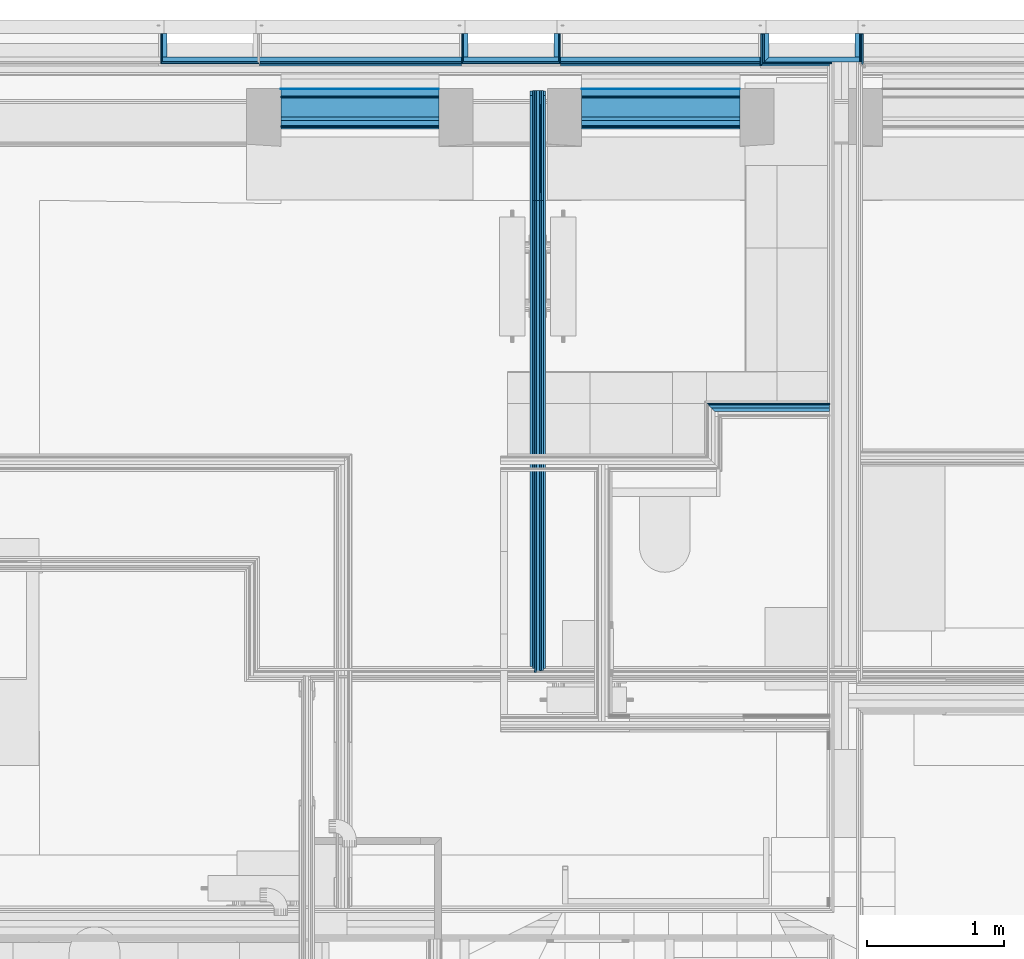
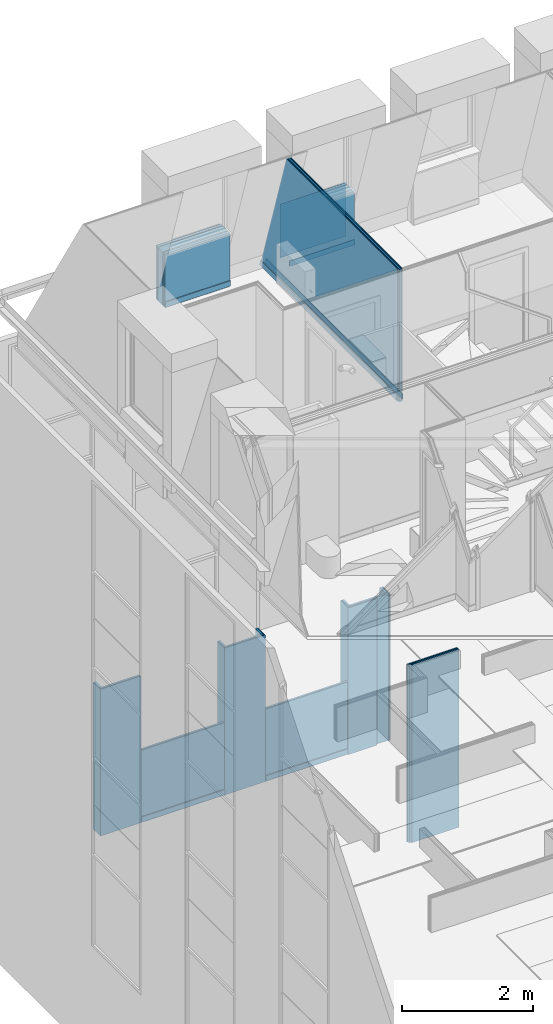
# One storey, part 27 of 169: 51 building element parts, 14 elements without a shape of their own.
"""IFC2X3 building model written with IfcOpenShell, lengths in metres."""

from ifc_helpers import new_model, entity, si_unit, converted_unit, derived_unit, money_unit, direction, frame, frame_2d, origin_with_axes, place, context, subcontext, project, spatial, polyline, rectangle, outline, extrude, clip, halfspace, material, type_object, element, aggregate, save


model = new_model("IFC2X3")

# Units and contexts
model_context = context("Model", 3, precision=1e-05, world=origin_with_axes(), true_north=direction((0.0, 1.0)))
body_context = subcontext(model_context, "Body", "Model", "MODEL_VIEW", scale=1.0)
ifc_project = project(units=[si_unit("LENGTHUNIT", "METRE"), si_unit("AREAUNIT", "SQUARE_METRE"), si_unit("VOLUMEUNIT", "CUBIC_METRE"), si_unit("ABSORBEDDOSEUNIT", "GRAY"), si_unit("AMOUNTOFSUBSTANCEUNIT", "MOLE"), si_unit("DOSEEQUIVALENTUNIT", "SIEVERT"), si_unit("ELECTRICCAPACITANCEUNIT", "FARAD"), si_unit("ELECTRICCHARGEUNIT", "COULOMB"), si_unit("ELECTRICCONDUCTANCEUNIT", "SIEMENS"), si_unit("ELECTRICCURRENTUNIT", "AMPERE"), si_unit("ELECTRICRESISTANCEUNIT", "OHM"), si_unit("ELECTRICVOLTAGEUNIT", "VOLT"), si_unit("ENERGYUNIT", "JOULE"), si_unit("FORCEUNIT", "NEWTON"), si_unit("FREQUENCYUNIT", "HERTZ"), si_unit("ILLUMINANCEUNIT", "LUX"), si_unit("INDUCTANCEUNIT", "HENRY"), si_unit("LUMINOUSFLUXUNIT", "LUMEN"), si_unit("LUMINOUSINTENSITYUNIT", "CANDELA"), si_unit("MAGNETICFLUXDENSITYUNIT", "TESLA"), si_unit("MAGNETICFLUXUNIT", "WEBER"), si_unit("MASSUNIT", "GRAM"), converted_unit("PLANEANGLEUNIT", "degree", entity("IfcReal", 0.0174532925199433), si_unit("PLANEANGLEUNIT", "RADIAN"), dimensions=[0, 0, 0, 0, 0, 0, 0]), si_unit("POWERUNIT", "WATT"), si_unit("PRESSUREUNIT", "PASCAL"), si_unit("RADIOACTIVITYUNIT", "BECQUEREL"), si_unit("SOLIDANGLEUNIT", "STERADIAN"), si_unit("THERMODYNAMICTEMPERATUREUNIT", "KELVIN"), si_unit("TIMEUNIT", "SECOND"), derived_unit("ACCELERATIONUNIT", [(si_unit("LENGTHUNIT", "METRE"), 1), (si_unit("TIMEUNIT", "SECOND"), -2)]), derived_unit("ANGULARVELOCITYUNIT", [(converted_unit("PLANEANGLEUNIT", "degree", entity("IfcReal", 0.0174532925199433), si_unit("PLANEANGLEUNIT", "RADIAN"), dimensions=[0, 0, 0, 0, 0, 0, 0]), 1), (si_unit("TIMEUNIT", "SECOND"), -1)]), derived_unit("CURVATUREUNIT", [(converted_unit("PLANEANGLEUNIT", "degree", entity("IfcReal", 0.0174532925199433), si_unit("PLANEANGLEUNIT", "RADIAN"), dimensions=[0, 0, 0, 0, 0, 0, 0]), 1), (si_unit("LENGTHUNIT", "METRE"), -1)]), derived_unit("DYNAMICVISCOSITYUNIT", [(si_unit("PRESSUREUNIT", "PASCAL"), 1), (si_unit("TIMEUNIT", "SECOND"), 1)]), derived_unit("HEATFLUXDENSITYUNIT", [(si_unit("POWERUNIT", "WATT"), 1), (si_unit("LENGTHUNIT", "METRE"), -2)]), derived_unit("HEATINGVALUEUNIT", [(si_unit("ENERGYUNIT", "JOULE"), 1), (si_unit("MASSUNIT", "GRAM"), -1)]), derived_unit("INTEGERCOUNTRATEUNIT", [(si_unit("TIMEUNIT", "SECOND"), -1)]), derived_unit("IONCONCENTRATIONUNIT", [(si_unit("MASSUNIT", "GRAM"), 1), (si_unit("VOLUMEUNIT", "CUBIC_METRE"), -1)]), derived_unit("ISOTHERMALMOISTURECAPACITYUNIT", [(si_unit("VOLUMEUNIT", "CUBIC_METRE"), 1), (si_unit("MASSUNIT", "GRAM"), -1)]), derived_unit("KINEMATICVISCOSITYUNIT", [(si_unit("AREAUNIT", "SQUARE_METRE"), 1), (si_unit("TIMEUNIT", "SECOND"), -1)]), derived_unit("LINEARFORCEUNIT", [(si_unit("FORCEUNIT", "NEWTON"), 1), (si_unit("LENGTHUNIT", "METRE"), -1)]), derived_unit("LINEARMOMENTUNIT", [(si_unit("FORCEUNIT", "NEWTON"), 1), (si_unit("LENGTHUNIT", "METRE"), -1)]), derived_unit("LINEARSTIFFNESSUNIT", [(si_unit("FORCEUNIT", "NEWTON"), 1), (si_unit("LENGTHUNIT", "METRE"), -1)]), derived_unit("LINEARVELOCITYUNIT", [(si_unit("LENGTHUNIT", "METRE"), 1), (si_unit("TIMEUNIT", "SECOND"), -1)]), derived_unit("LUMINOUSINTENSITYDISTRIBUTIONUNIT", [(si_unit("LUMINOUSINTENSITYUNIT", "CANDELA"), 1), (si_unit("LUMINOUSFLUXUNIT", "LUMEN"), -1)]), derived_unit("MASSDENSITYUNIT", [(si_unit("MASSUNIT", "GRAM"), 1), (si_unit("VOLUMEUNIT", "CUBIC_METRE"), -1)]), derived_unit("MASSFLOWRATEUNIT", [(si_unit("MASSUNIT", "GRAM"), 1), (si_unit("TIMEUNIT", "SECOND"), -1)]), derived_unit("MASSPERLENGTHUNIT", [(si_unit("MASSUNIT", "GRAM"), 1), (si_unit("LENGTHUNIT", "METRE"), -1)]), derived_unit("MODULUSOFELASTICITYUNIT", [(si_unit("FORCEUNIT", "NEWTON"), 1), (si_unit("AREAUNIT", "SQUARE_METRE"), -1)]), derived_unit("MODULUSOFLINEARSUBGRADEREACTIONUNIT", [(si_unit("FORCEUNIT", "NEWTON"), 1), (si_unit("LENGTHUNIT", "METRE"), -2)]), derived_unit("MODULUSOFROTATIONALSUBGRADEREACTIONUNIT", [(si_unit("FORCEUNIT", "NEWTON"), 1), (si_unit("LENGTHUNIT", "METRE"), 1)]), derived_unit("MODULUSOFSUBGRADEREACTIONUNIT", [(si_unit("FORCEUNIT", "NEWTON"), 1), (si_unit("VOLUMEUNIT", "CUBIC_METRE"), -1)]), derived_unit("MOISTUREDIFFUSIVITYUNIT", [(si_unit("VOLUMEUNIT", "CUBIC_METRE"), 1), (si_unit("TIMEUNIT", "SECOND"), -1)]), derived_unit("MOLECULARWEIGHTUNIT", [(si_unit("MASSUNIT", "GRAM"), 1), (si_unit("AMOUNTOFSUBSTANCEUNIT", "MOLE"), -1)]), derived_unit("PLANARFORCEUNIT", [(si_unit("FORCEUNIT", "NEWTON"), 1), (si_unit("LENGTHUNIT", "METRE"), -2)]), derived_unit("ROTATIONALFREQUENCYUNIT", [(si_unit("TIMEUNIT", "SECOND"), -1)]), derived_unit("ROTATIONALMASSUNIT", [(si_unit("MASSUNIT", "GRAM"), 1), (si_unit("LENGTHUNIT", "METRE"), 2)]), derived_unit("ROTATIONALSTIFFNESSUNIT", [(si_unit("FORCEUNIT", "NEWTON"), 1), (si_unit("LENGTHUNIT", "METRE"), 1), (converted_unit("PLANEANGLEUNIT", "degree", entity("IfcReal", 0.0174532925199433), si_unit("PLANEANGLEUNIT", "RADIAN"), dimensions=[0, 0, 0, 0, 0, 0, 0]), -1)]), derived_unit("SECTIONAREAINTEGRALUNIT", [(si_unit("LENGTHUNIT", "METRE"), 5)]), derived_unit("SECTIONMODULUSUNIT", [(si_unit("LENGTHUNIT", "METRE"), 3)]), derived_unit("SHEARMODULUSUNIT", [(si_unit("FORCEUNIT", "NEWTON"), 1), (si_unit("AREAUNIT", "SQUARE_METRE"), -1)]), derived_unit("SOUNDPOWERUNIT", [(si_unit("ENERGYUNIT", "JOULE"), 1), (si_unit("TIMEUNIT", "SECOND"), -1)]), derived_unit("SPECIFICHEATCAPACITYUNIT", [(si_unit("FORCEUNIT", "NEWTON"), 1), (si_unit("MASSUNIT", "GRAM"), -1), (si_unit("THERMODYNAMICTEMPERATUREUNIT", "KELVIN"), -1)]), derived_unit("TEMPERATUREGRADIENTUNIT", [(si_unit("THERMODYNAMICTEMPERATUREUNIT", "KELVIN"), 1), (si_unit("LENGTHUNIT", "METRE"), -1)]), derived_unit("THERMALADMITTANCEUNIT", [(si_unit("POWERUNIT", "WATT"), 1), (si_unit("AREAUNIT", "SQUARE_METRE"), -1), (si_unit("THERMODYNAMICTEMPERATUREUNIT", "KELVIN"), -1)]), derived_unit("THERMALCONDUCTANCEUNIT", [(si_unit("POWERUNIT", "WATT"), 1), (si_unit("LENGTHUNIT", "METRE"), -1), (si_unit("THERMODYNAMICTEMPERATUREUNIT", "KELVIN"), -1)]), derived_unit("THERMALEXPANSIONCOEFFICIENTUNIT", [(si_unit("THERMODYNAMICTEMPERATUREUNIT", "KELVIN"), -1)]), derived_unit("THERMALRESISTANCEUNIT", [(si_unit("AREAUNIT", "SQUARE_METRE"), 1), (si_unit("POWERUNIT", "WATT"), -1)]), derived_unit("THERMALTRANSMITTANCEUNIT", [(si_unit("POWERUNIT", "WATT"), 1), (si_unit("AREAUNIT", "SQUARE_METRE"), -1), (si_unit("THERMODYNAMICTEMPERATUREUNIT", "KELVIN"), -1)]), derived_unit("TORQUEUNIT", [(si_unit("FORCEUNIT", "NEWTON"), 1), (si_unit("LENGTHUNIT", "METRE"), 1)]), derived_unit("VAPORPERMEABILITYUNIT", [(si_unit("MASSUNIT", "GRAM"), 1), (si_unit("TIMEUNIT", "SECOND"), -1)]), derived_unit("VOLUMETRICFLOWRATEUNIT", [(si_unit("VOLUMEUNIT", "CUBIC_METRE"), 1), (si_unit("TIMEUNIT", "SECOND"), -1)]), derived_unit("WARPINGCONSTANTUNIT", [(si_unit("LENGTHUNIT", "METRE"), 6)]), derived_unit("WARPINGMOMENTUNIT", [(si_unit("FORCEUNIT", "NEWTON"), 1), (si_unit("LENGTHUNIT", "METRE"), 2)]), money_unit("GBP")], contexts=[model_context])

# Site, building, storey
site_placement = place(None, origin_with_axes())
site = spatial("IfcSite", under=ifc_project, at=site_placement, Name="Site", CompositionType="ELEMENT")
building_placement = place(site_placement, origin_with_axes())
building = spatial("IfcBuilding", under=site, at=building_placement, Name="Building01", CompositionType="ELEMENT")
storey_placement = place(building_placement, frame((0.0, 0.0, 5.15), z_axis=(0.0, 0.0, 1.0), x_axis=(1.0, 0.0, 0.0)))
storey = spatial("IfcBuildingStorey", under=building, at=storey_placement, Name="1F", CompositionType="ELEMENT", Elevation=5.15)

# Wall, building element parts
wall_type_1 = type_object("IfcWallType", Name="SHE_A-Walls_Type05a_Partition_95mm_tall", PredefinedType="NOTDEFINED")
wall_1_placement = place(storey_placement, frame((6.229669, 12.05067, 0.0), z_axis=(0.0, 0.0, 1.0), x_axis=(1.0, 0.0, 0.0)))
wall_1 = element("IfcWall", 1, at=wall_1_placement, inside=storey, type_object=wall_type_1, Name="5A", ObjectType="SHE_A-Walls_Type05a_Partition_95mm_tall")
ifc_material_1 = material(Name="A_BSUK_Insulation")
placement_1 = place(wall_1_placement, origin_with_axes())
building_element_part_1 = element("IfcBuildingElementPart", 2, at=placement_1, material=ifc_material_1, Name="4", context=body_context, shape_type="SweptSolid", body=[
    extrude(outline(polyline([(0.835, 0.025), (-0.025, 0.025), (0.0, 0.0), (0.835, 0.0), (0.835, 0.025)])), origin_with_axes(), (0.0, 0.0, 1.0), 3.32),
])
ifc_material_2 = material(Name="Air Cavity")
building_element_part_2 = element("IfcBuildingElementPart", 3, at=placement_1, material=ifc_material_2, Name="5", context=body_context, shape_type="SweptSolid", body=[
    extrude(outline(polyline([(0.835, 0.048), (-0.048, 0.048), (-0.025, 0.025), (0.835, 0.025), (0.835, 0.048)])), origin_with_axes(), (0.0, 0.0, 1.0), 3.32),
])
ifc_material_3 = material(Name="A_BSUK_WallInternal_Finishes_Plasterboard")
building_element_part_3 = element("IfcBuildingElementPart", 4, at=placement_1, material=ifc_material_3, Name="6", context=body_context, shape_type="SweptSolid", body=[
    extrude(outline(polyline([(0.835, 0.06), (-0.06, 0.06), (-0.048, 0.048), (0.835, 0.048), (0.835, 0.06)])), origin_with_axes(), (0.0, 0.0, 1.0), 3.32),
])
aggregate(wall_1, [building_element_part_1, building_element_part_2, building_element_part_3])

wall_type_2 = type_object("IfcWallType", Name="SHE_A-Walls_Type06f_ExternalWallInsulation_48+15mm", PredefinedType="NOTDEFINED")
wall_2_placement = place(storey_placement, frame((7.265, 14.8, 0.0), z_axis=(0.0, 0.0, 1.0), x_axis=(0.0, -1.0, 0.0)))
wall_2 = element("IfcWall", 5, at=wall_2_placement, inside=storey, type_object=wall_type_2, Name="6F", ObjectType="SHE_A-Walls_Type06f_ExternalWallInsulation_48+15mm")
placement_2 = place(wall_2_placement, origin_with_axes())
building_element_part_4 = element("IfcBuildingElementPart", 6, at=placement_2, material=ifc_material_1, Name="1", context=body_context, shape_type="SweptSolid", body=[
    extrude(rectangle(XDim=0.17, YDim=0.036, at=frame_2d((0.085, 0.0), x_axis=(-1.0, 0.0))), origin_with_axes(), (0.0, 0.0, 1.0), 2.74),
])
building_element_part_5 = element("IfcBuildingElementPart", 7, at=placement_2, material=ifc_material_3, Name="2", context=body_context, shape_type="SweptSolid", body=[
    extrude(rectangle(XDim=0.206, YDim=0.012, at=frame_2d((0.103, 0.024), x_axis=(-1.0, 0.0))), origin_with_axes(), (0.0, 0.0, 1.0), 2.74),
])
building_element_part_6 = element("IfcBuildingElementPart", 8, at=placement_2, material=ifc_material_3, Name="3", context=body_context, shape_type="SweptSolid", body=[
    extrude(outline(polyline([(0.233, 0.045), (0.0, 0.045), (0.0, 0.03), (0.218, 0.03), (0.233, 0.045)])), origin_with_axes(), (0.0, 0.0, 1.0), 2.74),
])
aggregate(wall_2, [building_element_part_4, building_element_part_5, building_element_part_6])

wall_3_placement = place(storey_placement, frame((6.605, 14.612, 0.0), z_axis=(0.0, 0.0, 1.0), x_axis=(0.0, 1.0, 0.0)))
wall_3 = element("IfcWall", 9, at=wall_3_placement, inside=storey, type_object=wall_type_2, Name="6F", ObjectType="SHE_A-Walls_Type06f_ExternalWallInsulation_48+15mm")
placement_3 = place(wall_3_placement, origin_with_axes())
building_element_part_7 = element("IfcBuildingElementPart", 10, at=placement_3, material=ifc_material_1, Name="1", context=body_context, shape_type="SweptSolid", body=[
    extrude(outline(polyline([(-0.018, 0.018), (0.018, -0.018), (0.188, -0.018), (0.188, 0.018), (-0.018, 0.018)])), origin_with_axes(), (0.0, 0.0, 1.0), 2.74),
])
building_element_part_8 = element("IfcBuildingElementPart", 11, at=placement_3, material=ifc_material_3, Name="2", context=body_context, shape_type="SweptSolid", body=[
    extrude(outline(polyline([(-0.03, 0.03), (-0.018, 0.018), (0.188, 0.018), (0.188, 0.03), (-0.03, 0.03)])), origin_with_axes(), (0.0, 0.0, 1.0), 2.74),
])
building_element_part_9 = element("IfcBuildingElementPart", 12, at=placement_3, material=ifc_material_3, Name="3", context=body_context, shape_type="SweptSolid", body=[
    extrude(outline(polyline([(-0.045, 0.045), (-0.03, 0.03), (0.188, 0.03), (0.188, 0.045), (-0.045, 0.045)])), origin_with_axes(), (0.0, 0.0, 1.0), 2.74),
])
aggregate(wall_3, [building_element_part_7, building_element_part_8, building_element_part_9])

wall_4_placement = place(storey_placement, frame((7.283, 14.612, 0.0), z_axis=(0.0, 0.0, 1.0), x_axis=(-1.0, 0.0, 0.0)))
wall_4 = element("IfcWall", 13, at=wall_4_placement, inside=storey, type_object=wall_type_2, Name="6F", ObjectType="SHE_A-Walls_Type06f_ExternalWallInsulation_48+15mm")
placement_4 = place(wall_4_placement, origin_with_axes())
building_element_part_10 = element("IfcBuildingElementPart", 14, at=placement_4, material=ifc_material_1, Name="1", context=body_context, shape_type="SweptSolid", body=[
    extrude(outline(polyline([(0.696, 0.018), (0.0, 0.018), (0.0, -0.018), (0.66, -0.018), (0.696, 0.018)])), origin_with_axes(), (0.0, 0.0, 1.0), 2.74),
])
building_element_part_11 = element("IfcBuildingElementPart", 15, at=placement_4, material=ifc_material_3, Name="2", context=body_context, shape_type="SweptSolid", body=[
    extrude(outline(polyline([(0.708, 0.03), (0.203331, 0.03), (0.203331, 0.018), (0.696, 0.018), (0.708, 0.03)])), origin_with_axes(), (0.0, 0.0, 1.0), 2.74),
])
building_element_part_12 = element("IfcBuildingElementPart", 16, at=placement_4, material=ifc_material_3, Name="5", context=body_context, shape_type="SweptSolid", body=[
    extrude(outline(polyline([(0.723, 0.045), (0.218331, 0.045), (0.218331, 0.03), (0.708, 0.03), (0.723, 0.045)])), origin_with_axes(), (0.0, 0.0, 1.0), 2.74),
])
aggregate(wall_4, [building_element_part_10, building_element_part_11, building_element_part_12])

wall_type_3 = type_object("IfcWallType", Name="SHE_A-Walls_Type06d_ExternalWallInsulation_48mm", PredefinedType="NOTDEFINED")
wall_5_placement = place(storey_placement, frame((6.559876, 14.594, 0.0), z_axis=(0.0, 0.0, 1.0), x_axis=(-1.0, 0.0, 0.0)))
wall_5 = element("IfcWall", 17, at=wall_5_placement, inside=storey, type_object=wall_type_3, Name="6D", ObjectType="SHE_A-Walls_Type06d_ExternalWallInsulation_48mm")
placement_5 = place(wall_5_placement, origin_with_axes())
building_element_part_13 = element("IfcBuildingElementPart", 18, at=placement_5, material=ifc_material_1, Name="1", context=body_context, shape_type="SweptSolid", body=[
    extrude(rectangle(XDim=1.454876, YDim=0.036, at=frame_2d((0.727438, -0.018), x_axis=(-1.0, 0.0))), origin_with_axes(), (0.0, 0.0, 1.0), 1.35),
])
building_element_part_14 = element("IfcBuildingElementPart", 19, at=placement_5, material=ifc_material_3, Name="2", context=body_context, shape_type="SweptSolid", body=[
    extrude(rectangle(XDim=1.454876, YDim=0.013, at=frame_2d((0.727438, 0.0055), x_axis=(-1.0, 0.0))), origin_with_axes(), (0.0, 0.0, 1.0), 1.35),
])
ifc_material_4 = material(Name="A_BSUK_Walls_Timber")
building_element_part_15 = element("IfcBuildingElementPart", 20, at=placement_5, material=ifc_material_4, Name="3", context=body_context, shape_type="SweptSolid", body=[
    extrude(rectangle(XDim=1.454876, YDim=0.015, at=frame_2d((0.727438, 0.0195), x_axis=(-1.0, 0.0))), frame((0.0, 0.0, 0.015), z_axis=(0.0, 0.0, 1.0), x_axis=(1.0, 0.0, 0.0)), (0.0, 0.0, 1.0), 0.1),
])
aggregate(wall_5, [building_element_part_13, building_element_part_14, building_element_part_15])

wall_6_placement = place(storey_placement, frame((5.093, 14.63, 0.0), z_axis=(0.0, 0.0, 1.0), x_axis=(0.0, 1.0, 0.0)))
wall_6 = element("IfcWall", 21, at=wall_6_placement, inside=storey, type_object=wall_type_3, Name="6D", ObjectType="SHE_A-Walls_Type06d_ExternalWallInsulation_48mm")
placement_6 = place(wall_6_placement, origin_with_axes())
building_element_part_16 = element("IfcBuildingElementPart", 22, at=placement_6, material=ifc_material_3, Name="2", context=body_context, shape_type="SweptSolid", body=[
    extrude(outline(polyline([(-0.035, 0.001), (-0.048, -0.012), (0.17, -0.012), (0.17, 0.001), (-0.035, 0.001)])), origin_with_axes(), (0.0, 0.0, 1.0), 2.74),
])
building_element_part_17 = element("IfcBuildingElementPart", 23, at=placement_6, material=ifc_material_1, Name="3", context=body_context, shape_type="SweptSolid", body=[
    extrude(rectangle(XDim=0.036, YDim=0.17, at=frame_2d((0.085, 0.018), x_axis=(0.0, -1.0))), origin_with_axes(), (0.0, 0.0, 1.0), 2.74),
])
aggregate(wall_6, [building_element_part_16, building_element_part_17])

wall_7_placement = place(storey_placement, frame((5.093, 14.63, 0.0), z_axis=(0.0, 0.0, 1.0), x_axis=(-1.0, 0.0, 0.0)))
wall_7 = element("IfcWall", 24, at=wall_7_placement, inside=storey, type_object=wall_type_3, Name="6D", ObjectType="SHE_A-Walls_Type06d_ExternalWallInsulation_48mm")
placement_7 = place(wall_7_placement, origin_with_axes())
building_element_part_18 = element("IfcBuildingElementPart", 25, at=placement_7, material=ifc_material_1, Name="1", context=body_context, shape_type="SweptSolid", body=[
    extrude(rectangle(XDim=0.696, YDim=0.036, at=frame_2d((0.348, 0.018), x_axis=(-1.0, 0.0))), origin_with_axes(), (0.0, 0.0, 1.0), 2.74),
])
building_element_part_19 = element("IfcBuildingElementPart", 26, at=placement_7, material=ifc_material_3, Name="2", context=body_context, shape_type="SweptSolid", body=[
    extrude(outline(polyline([(0.708, 0.048), (-0.012, 0.048), (0.001, 0.035), (0.695, 0.035), (0.708, 0.048)])), origin_with_axes(), (0.0, 0.0, 1.0), 2.74),
])
aggregate(wall_7, [building_element_part_18, building_element_part_19])

wall_8_placement = place(storey_placement, frame((4.397, 14.63, 0.0), z_axis=(0.0, 0.0, 1.0), x_axis=(0.0, 1.0, 0.0)))
wall_8 = element("IfcWall", 27, at=wall_8_placement, inside=storey, type_object=wall_type_3, Name="6D", ObjectType="SHE_A-Walls_Type06d_ExternalWallInsulation_48mm")
placement_8 = place(wall_8_placement, origin_with_axes())
building_element_part_20 = element("IfcBuildingElementPart", 28, at=placement_8, material=ifc_material_1, Name="1", context=body_context, shape_type="SweptSolid", body=[
    extrude(rectangle(XDim=0.036, YDim=0.17, at=frame_2d((0.085, -0.018), x_axis=(0.0, -1.0))), origin_with_axes(), (0.0, 0.0, 1.0), 2.74),
])
building_element_part_21 = element("IfcBuildingElementPart", 29, at=placement_8, material=ifc_material_3, Name="2", context=body_context, shape_type="SweptSolid", body=[
    extrude(outline(polyline([(-0.048, 0.012), (-0.035, -0.001), (0.17, -0.001), (0.17, 0.012), (-0.048, 0.012)])), origin_with_axes(), (0.0, 0.0, 1.0), 2.74),
])
aggregate(wall_8, [building_element_part_20, building_element_part_21])

wall_9_placement = place(storey_placement, frame((4.385, 14.594, 0.0), z_axis=(0.0, 0.0, 1.0), x_axis=(-1.0, 0.0, 0.0)))
wall_9 = element("IfcWall", 30, at=wall_9_placement, inside=storey, type_object=wall_type_3, Name="6D", ObjectType="SHE_A-Walls_Type06d_ExternalWallInsulation_48mm")
placement_9 = place(wall_9_placement, origin_with_axes())
building_element_part_22 = element("IfcBuildingElementPart", 31, at=placement_9, material=ifc_material_1, Name="1", context=body_context, shape_type="SweptSolid", body=[
    extrude(rectangle(XDim=1.47, YDim=0.036, at=frame_2d((0.735, -0.018), x_axis=(-1.0, 0.0))), origin_with_axes(), (0.0, 0.0, 1.0), 1.35),
])
building_element_part_23 = element("IfcBuildingElementPart", 32, at=placement_9, material=ifc_material_3, Name="2", context=body_context, shape_type="SweptSolid", body=[
    extrude(rectangle(XDim=1.47, YDim=0.013, at=frame_2d((0.735, 0.0055), x_axis=(-1.0, 0.0))), origin_with_axes(), (0.0, 0.0, 1.0), 1.35),
])
building_element_part_24 = element("IfcBuildingElementPart", 33, at=placement_9, material=ifc_material_4, Name="3", context=body_context, shape_type="SweptSolid", body=[
    extrude(rectangle(XDim=1.47, YDim=0.015, at=frame_2d((0.735, 0.0195), x_axis=(-1.0, 0.0))), frame((0.0, 0.0, 0.015), z_axis=(0.0, 0.0, 1.0), x_axis=(1.0, 0.0, 0.0)), (0.0, 0.0, 1.0), 0.1),
])
aggregate(wall_9, [building_element_part_22, building_element_part_23, building_element_part_24])

wall_10_placement = place(storey_placement, frame((2.903, 14.63, 0.0), z_axis=(0.0, 0.0, 1.0), x_axis=(-1.0, 0.0, 0.0)))
wall_10 = element("IfcWall", 34, at=wall_10_placement, inside=storey, type_object=wall_type_3, Name="6D", ObjectType="SHE_A-Walls_Type06d_ExternalWallInsulation_48mm")
placement_10 = place(wall_10_placement, origin_with_axes())
building_element_part_25 = element("IfcBuildingElementPart", 35, at=placement_10, material=ifc_material_1, Name="1", context=body_context, shape_type="SweptSolid", body=[
    extrude(rectangle(XDim=0.696, YDim=0.036, at=frame_2d((0.348, 0.018), x_axis=(-1.0, 0.0))), origin_with_axes(), (0.0, 0.0, 1.0), 2.74),
])
building_element_part_26 = element("IfcBuildingElementPart", 36, at=placement_10, material=ifc_material_3, Name="2", context=body_context, shape_type="SweptSolid", body=[
    extrude(outline(polyline([(0.708, 0.048), (-0.012, 0.048), (0.001, 0.035), (0.695, 0.035), (0.708, 0.048)])), origin_with_axes(), (0.0, 0.0, 1.0), 2.74),
])
aggregate(wall_10, [building_element_part_25, building_element_part_26])

wall_11_placement = place(storey_placement, frame((2.207, 14.63, 0.0), z_axis=(0.0, 0.0, 1.0), x_axis=(0.0, 1.0, 0.0)))
wall_11 = element("IfcWall", 37, at=wall_11_placement, inside=storey, type_object=wall_type_3, Name="6D", ObjectType="SHE_A-Walls_Type06d_ExternalWallInsulation_48mm")
placement_11 = place(wall_11_placement, origin_with_axes())
building_element_part_27 = element("IfcBuildingElementPart", 38, at=placement_11, material=ifc_material_1, Name="1", context=body_context, shape_type="SweptSolid", body=[
    extrude(rectangle(XDim=0.036, YDim=0.17, at=frame_2d((0.085, -0.018), x_axis=(0.0, -1.0))), origin_with_axes(), (0.0, 0.0, 1.0), 2.74),
])
building_element_part_28 = element("IfcBuildingElementPart", 39, at=placement_11, material=ifc_material_3, Name="2", context=body_context, shape_type="SweptSolid", body=[
    extrude(outline(polyline([(-0.048, 0.012), (-0.035, -0.001), (0.17, -0.001), (0.17, 0.012), (-0.048, 0.012)])), origin_with_axes(), (0.0, 0.0, 1.0), 2.74),
])
aggregate(wall_11, [building_element_part_27, building_element_part_28])

wall_type_4 = type_object("IfcWallType", Name="SHE_A-Walls_Type05b_Partition_80mm", PredefinedType="NOTDEFINED")
wall_12_placement = place(storey_placement, frame((4.953024, 10.151939, 9.83), z_axis=(0.0, 0.0, 1.0), x_axis=(0.0, 1.0, 0.0)))
wall_12 = element("IfcWall", 40, at=wall_12_placement, inside=storey, type_object=wall_type_4, Name="5B", ObjectType="SHE_A-Walls_Type05b_Partition_80mm")
placement_12 = place(wall_12_placement, origin_with_axes())
building_element_part_29 = element("IfcBuildingElementPart", 41, at=placement_12, material=ifc_material_4, Name="1", context=body_context, shape_type="Clipping", body=[
    clip(extrude(rectangle(XDim=4.201845, YDim=0.015, at=frame_2d((2.128922, -0.0345), x_axis=(-1.0, 0.0))), frame((0.0, 0.0, 0.015), z_axis=(0.0, 0.0, 1.0), x_axis=(1.0, 0.0, 0.0)), (0.0, 0.0, 1.0), 0.1), halfspace(frame((3.830339, 0.0, 1.244553), z_axis=(-0.95105652, 0.0, -0.30901699), x_axis=(0.0, -1.0, 0.0)), True)),
])
building_element_part_30 = element("IfcBuildingElementPart", 42, at=placement_12, material=ifc_material_3, Name="2", context=body_context, shape_type="Clipping", body=[
    clip(extrude(rectangle(XDim=4.221719, YDim=0.015, at=frame_2d((2.123859, -0.0195), x_axis=(-1.0, 0.0))), origin_with_axes(), (0.0, 0.0, 1.0), 2.468), halfspace(frame((3.830339, 0.0, 1.244553), z_axis=(-0.95105652, 0.0, -0.30901699), x_axis=(0.0, -1.0, 0.0)), True)),
])
building_element_part_31 = element("IfcBuildingElementPart", 43, at=placement_12, material=ifc_material_2, Name="3", context=body_context, shape_type="Clipping", body=[
    clip(extrude(rectangle(XDim=4.221719, YDim=0.012, at=frame_2d((2.123859, -0.006), x_axis=(-1.0, 0.0))), origin_with_axes(), (0.0, 0.0, 1.0), 2.468), halfspace(frame((3.830339, 0.0, 1.244553), z_axis=(-0.95105652, 0.0, -0.30901699), x_axis=(0.0, -1.0, 0.0)), True)),
])
building_element_part_32 = element("IfcBuildingElementPart", 44, at=placement_12, material=ifc_material_1, Name="4", context=body_context, shape_type="Clipping", body=[
    clip(extrude(rectangle(XDim=4.234719, YDim=0.025, at=frame_2d((2.117359, 0.0125), x_axis=(-1.0, 0.0))), origin_with_axes(), (0.0, 0.0, 1.0), 2.468), halfspace(frame((3.830339, 0.0, 1.244553), z_axis=(-0.95105652, 0.0, -0.30901699), x_axis=(0.0, -1.0, 0.0)), True)),
])
building_element_part_33 = element("IfcBuildingElementPart", 45, at=placement_12, material=ifc_material_2, Name="5", context=body_context, shape_type="Clipping", body=[
    clip(extrude(rectangle(XDim=4.234719, YDim=0.013, at=frame_2d((2.117359, 0.0315), x_axis=(-1.0, 0.0))), origin_with_axes(), (0.0, 0.0, 1.0), 2.468), halfspace(frame((3.830339, 0.0, 1.244553), z_axis=(-0.95105652, 0.0, -0.30901699), x_axis=(0.0, -1.0, 0.0)), True)),
])
building_element_part_34 = element("IfcBuildingElementPart", 46, at=placement_12, material=ifc_material_3, Name="6", context=body_context, shape_type="Clipping", body=[
    clip(extrude(rectangle(XDim=4.206719, YDim=0.015, at=frame_2d((2.131359, 0.0455), x_axis=(-1.0, 0.0))), origin_with_axes(), (0.0, 0.0, 1.0), 2.468), halfspace(frame((3.830339, 0.0, 1.244553), z_axis=(-0.95105652, 0.0, -0.30901699), x_axis=(0.0, -1.0, 0.0)), True)),
])
building_element_part_35 = element("IfcBuildingElementPart", 47, at=placement_12, material=ifc_material_4, Name="7", context=body_context, shape_type="Clipping", body=[
    clip(extrude(rectangle(XDim=4.186845, YDim=0.015, at=frame_2d((2.136422, 0.0605), x_axis=(-1.0, 0.0))), frame((0.0, 0.0, 0.015), z_axis=(0.0, 0.0, 1.0), x_axis=(1.0, 0.0, 0.0)), (0.0, 0.0, 1.0), 0.1), halfspace(frame((3.830339, 0.0, 1.244553), z_axis=(-0.95105652, 0.0, -0.30901699), x_axis=(0.0, -1.0, 0.0)), True)),
])
aggregate(wall_12, [building_element_part_29, building_element_part_30, building_element_part_31, building_element_part_32, building_element_part_33, building_element_part_34, building_element_part_35])

wall_type_5 = type_object("IfcWallType", Name="SHE_A-Walls_Type06e_ExternalWallPenthouse_280mm", PredefinedType="NOTDEFINED")
wall_13_placement = place(storey_placement, frame((5.260024, 14.335061, 9.83), z_axis=(0.0, 0.0, 1.0), x_axis=(1.0, 0.0, 0.0)))
wall_13 = element("IfcWall", 48, at=wall_13_placement, inside=storey, type_object=wall_type_5, Name="6E", ObjectType="SHE_A-Walls_Type06e_ExternalWallPenthouse_280mm")
placement_13 = place(wall_13_placement, origin_with_axes())
building_element_part_36 = element("IfcBuildingElementPart", 49, at=placement_13, material=ifc_material_4, Name="1", context=body_context, shape_type="SweptSolid", body=[
    extrude(rectangle(XDim=1.149951, YDim=0.015, at=frame_2d((0.574976, -0.2225), x_axis=(-1.0, 0.0))), frame((0.0, 0.0, 0.015), z_axis=(0.0, 0.0, 1.0), x_axis=(1.0, 0.0, 0.0)), (0.0, 0.0, 1.0), 0.1),
])
building_element_part_37 = element("IfcBuildingElementPart", 50, at=placement_13, material=ifc_material_3, Name="2", context=body_context, shape_type="SweptSolid", body=[
    extrude(rectangle(XDim=1.149951, YDim=0.01, at=frame_2d((0.574976, -0.21), x_axis=(-1.0, 0.0))), origin_with_axes(), (0.0, 0.0, 1.0), 1.0),
])
building_element_part_38 = element("IfcBuildingElementPart", 51, at=placement_13, material=ifc_material_1, Name="3", context=body_context, shape_type="SweptSolid", body=[
    extrude(rectangle(XDim=1.149951, YDim=0.04, at=frame_2d((0.574976, -0.185), x_axis=(-1.0, 0.0))), origin_with_axes(), (0.0, 0.0, 1.0), 1.0),
])
building_element_part_39 = element("IfcBuildingElementPart", 52, at=placement_13, material=ifc_material_2, Name="4", context=body_context, shape_type="SweptSolid", body=[
    extrude(rectangle(XDim=1.149951, YDim=0.025, at=frame_2d((0.574976, -0.1525), x_axis=(-1.0, 0.0))), origin_with_axes(), (0.0, 0.0, 1.0), 1.0),
])
building_element_part_40 = element("IfcBuildingElementPart", 53, at=placement_13, material=ifc_material_1, Name="5", context=body_context, shape_type="SweptSolid", body=[
    extrude(rectangle(XDim=1.149951, YDim=0.14, at=frame_2d((0.574976, -0.07), x_axis=(-1.0, 0.0))), origin_with_axes(), (0.0, 0.0, 1.0), 1.0),
])
building_element_part_41 = element("IfcBuildingElementPart", 54, at=placement_13, material=ifc_material_4, Name="6", context=body_context, shape_type="SweptSolid", body=[
    extrude(rectangle(XDim=1.149951, YDim=0.01, at=frame_2d((0.574976, 0.005), x_axis=(-1.0, 0.0))), origin_with_axes(), (0.0, 0.0, 1.0), 1.0),
])
building_element_part_42 = element("IfcBuildingElementPart", 55, at=placement_13, material=ifc_material_2, Name="7", context=body_context, shape_type="SweptSolid", body=[
    extrude(rectangle(XDim=1.149951, YDim=0.05, at=frame_2d((0.574976, 0.035), x_axis=(-1.0, 0.0))), origin_with_axes(), (0.0, 0.0, 1.0), 1.0),
])
ifc_material_5 = material(Name="A_BSUK_WallInternal_Finishes_Metal")
building_element_part_43 = element("IfcBuildingElementPart", 56, at=placement_13, material=ifc_material_5, Name="8", context=body_context, shape_type="SweptSolid", body=[
    extrude(rectangle(XDim=1.149951, YDim=0.005, at=frame_2d((0.574976, 0.0625), x_axis=(-1.0, 0.0))), origin_with_axes(), (0.0, 0.0, 1.0), 1.0),
])
aggregate(wall_13, [building_element_part_36, building_element_part_37, building_element_part_38, building_element_part_39, building_element_part_40, building_element_part_41, building_element_part_42, building_element_part_43])

wall_14_placement = place(storey_placement, frame((3.070024, 14.335061, 9.83), z_axis=(0.0, 0.0, 1.0), x_axis=(1.0, 0.0, 0.0)))
wall_14 = element("IfcWall", 57, at=wall_14_placement, inside=storey, type_object=wall_type_5, Name="6E", ObjectType="SHE_A-Walls_Type06e_ExternalWallPenthouse_280mm")
placement_14 = place(wall_14_placement, origin_with_axes())
building_element_part_44 = element("IfcBuildingElementPart", 58, at=placement_14, material=ifc_material_4, Name="1", context=body_context, shape_type="SweptSolid", body=[
    extrude(rectangle(XDim=1.149951, YDim=0.015, at=frame_2d((0.574976, -0.2225), x_axis=(-1.0, 0.0))), frame((0.0, 0.0, 0.015), z_axis=(0.0, 0.0, 1.0), x_axis=(1.0, 0.0, 0.0)), (0.0, 0.0, 1.0), 0.1),
])
building_element_part_45 = element("IfcBuildingElementPart", 59, at=placement_14, material=ifc_material_3, Name="2", context=body_context, shape_type="SweptSolid", body=[
    extrude(rectangle(XDim=1.149951, YDim=0.01, at=frame_2d((0.574976, -0.21), x_axis=(-1.0, 0.0))), origin_with_axes(), (0.0, 0.0, 1.0), 1.0),
])
building_element_part_46 = element("IfcBuildingElementPart", 60, at=placement_14, material=ifc_material_1, Name="3", context=body_context, shape_type="SweptSolid", body=[
    extrude(rectangle(XDim=1.149951, YDim=0.04, at=frame_2d((0.574976, -0.185), x_axis=(-1.0, 0.0))), origin_with_axes(), (0.0, 0.0, 1.0), 1.0),
])
building_element_part_47 = element("IfcBuildingElementPart", 61, at=placement_14, material=ifc_material_2, Name="4", context=body_context, shape_type="SweptSolid", body=[
    extrude(rectangle(XDim=1.149951, YDim=0.025, at=frame_2d((0.574976, -0.1525), x_axis=(-1.0, 0.0))), origin_with_axes(), (0.0, 0.0, 1.0), 1.0),
])
building_element_part_48 = element("IfcBuildingElementPart", 62, at=placement_14, material=ifc_material_1, Name="5", context=body_context, shape_type="SweptSolid", body=[
    extrude(rectangle(XDim=1.149951, YDim=0.14, at=frame_2d((0.574976, -0.07), x_axis=(-1.0, 0.0))), origin_with_axes(), (0.0, 0.0, 1.0), 1.0),
])
building_element_part_49 = element("IfcBuildingElementPart", 63, at=placement_14, material=ifc_material_4, Name="6", context=body_context, shape_type="SweptSolid", body=[
    extrude(rectangle(XDim=1.149951, YDim=0.01, at=frame_2d((0.574976, 0.005), x_axis=(-1.0, 0.0))), origin_with_axes(), (0.0, 0.0, 1.0), 1.0),
])
building_element_part_50 = element("IfcBuildingElementPart", 64, at=placement_14, material=ifc_material_2, Name="7", context=body_context, shape_type="SweptSolid", body=[
    extrude(rectangle(XDim=1.149951, YDim=0.05, at=frame_2d((0.574976, 0.035), x_axis=(-1.0, 0.0))), origin_with_axes(), (0.0, 0.0, 1.0), 1.0),
])
building_element_part_51 = element("IfcBuildingElementPart", 65, at=placement_14, material=ifc_material_5, Name="8", context=body_context, shape_type="SweptSolid", body=[
    extrude(rectangle(XDim=1.149951, YDim=0.005, at=frame_2d((0.574976, 0.0625), x_axis=(-1.0, 0.0))), origin_with_axes(), (0.0, 0.0, 1.0), 1.0),
])
aggregate(wall_14, [building_element_part_44, building_element_part_45, building_element_part_46, building_element_part_47, building_element_part_48, building_element_part_49, building_element_part_50, building_element_part_51])

save(model, "model.ifc")
